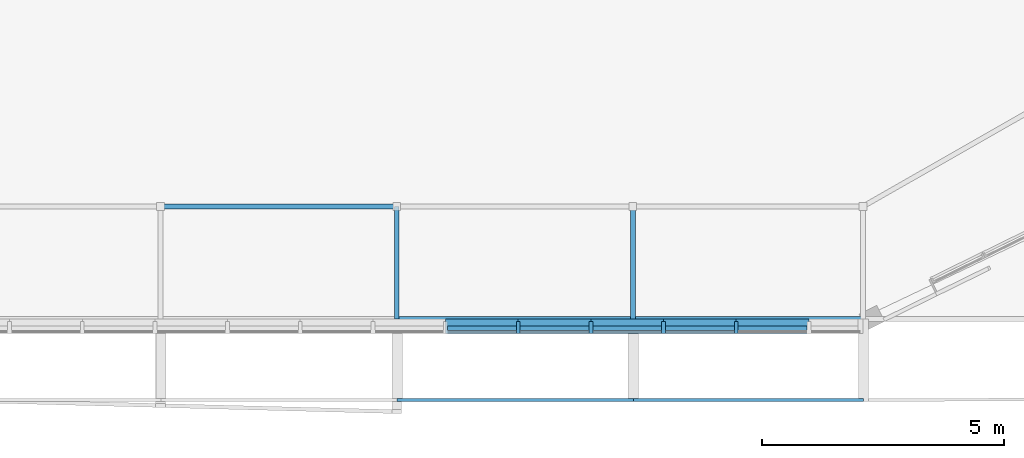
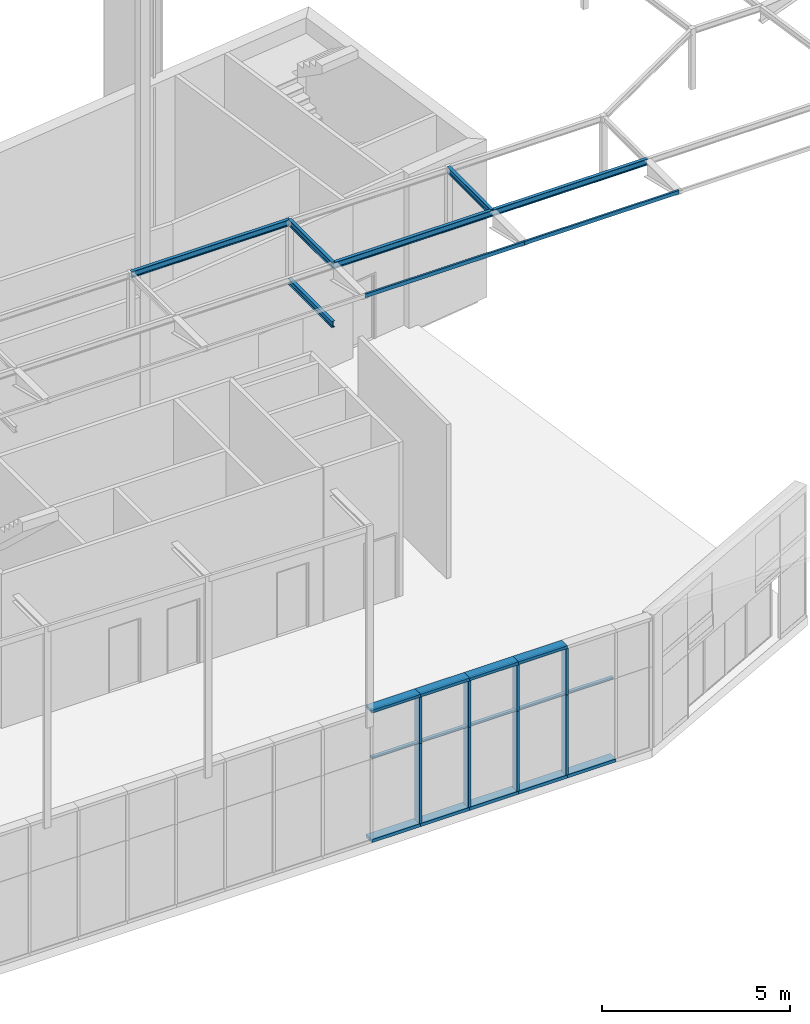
# One storey, part 14 of 40: 26 members, 8 beams, 1 element without a shape of its own.
"""IFC2X3 building model written with IfcOpenShell, lengths in metres."""

import ifcopenshell
import ifcopenshell.guid

model = None  # the IFC model being written
_history = None  # IfcOwnerHistory: only IFC2X3 demands one
_inside = {}  # id of a spatial element -> (the spatial element, [elements in it])
_under = {}  # id of a project, library or spatial element -> (it, [spatial elements below it])
_declared = {}  # id of a project -> (the project, [libraries it declares])
_typed = {}  # id of a type object -> (the type object, [elements of that type])
_made_of = {}  # id of a material, layer set ... -> (it, [elements and type objects made of it])


def new_model(schema):
    """Start an empty IFC model of exactly this schema.

    Asked for "IFC4X3", IfcOpenShell would pick the latest addendum, in which some entities
    have other attributes; the version numbers below select the first issue.
    IFC2X3 requires an IfcOwnerHistory on every rooted entity: one is made here for all.
    """
    global model, _history
    if schema == "IFC4X3":
        model = ifcopenshell.file(schema_version=(4, 3, 0, 0))
    else:
        model = ifcopenshell.file(schema=schema)
    _inside.clear()
    _under.clear()
    _declared.clear()
    _typed.clear()
    _made_of.clear()
    _history = None
    if model.schema == "IFC2X3":
        org = make("IfcOrganization", Name="unknown")
        user = make(
            "IfcPersonAndOrganization",
            ThePerson=make("IfcPerson", FamilyName="unknown"),
            TheOrganization=org,
        )
        app = make(
            "IfcApplication",
            ApplicationDeveloper=org,
            Version="unknown",
            ApplicationFullName="unknown",
            ApplicationIdentifier="unknown",
        )
        _history = make(
            "IfcOwnerHistory",
            OwningUser=user,
            OwningApplication=app,
            ChangeAction="ADDED",
            CreationDate=0,
        )
    return model


def make(cls, **values):
    """One entity of the class cls with the attributes given. An attribute that is None is left unset."""
    return model.create_entity(
        cls, **{name: value for name, value in values.items() if value is not None}
    )


def entity(cls, *values):
    """Any entity or typed value of the class cls, its attributes in the order of the schema. None: left unset."""
    e = model.create_entity(cls)
    for i, value in enumerate(values):
        if value is not None:
            e[i] = value
    return e


def rooted(cls, **values):
    """An entity with a GlobalId (a new one), such as an element, a storey or a relation."""
    return make(cls, GlobalId=ifcopenshell.guid.new(), OwnerHistory=_history, **values)


def si_unit(unit_type, name, prefix=None):
    """IfcSIUnit, for example si_unit("LENGTHUNIT", "METRE", prefix="MILLI")."""
    return make("IfcSIUnit", UnitType=unit_type, Prefix=prefix, Name=name)


def converted_unit(unit_type, name, factor, base, dimensions=None, offset=None):
    """IfcConversionBasedUnit, such as the inch: factor (a typed value) times the base unit."""
    return make(
        "IfcConversionBasedUnit"
        if offset is None
        else "IfcConversionBasedUnitWithOffset",
        ConversionOffset=offset,
        Dimensions=None
        if dimensions is None
        else entity("IfcDimensionalExponents", *dimensions),
        UnitType=unit_type,
        Name=name,
        ConversionFactor=make(
            "IfcMeasureWithUnit", ValueComponent=factor, UnitComponent=base
        ),
    )


def money_unit(currency):
    """IfcMonetaryUnit."""
    return make("IfcMonetaryUnit", Currency=currency)


def assignment(units):
    """IfcUnitAssignment: the units of a project."""
    return None if units is None else make("IfcUnitAssignment", Units=units)


def point(xyz):
    """IfcCartesianPoint."""
    return None if xyz is None else make("IfcCartesianPoint", Coordinates=xyz)


def direction(xyz):
    """IfcDirection."""
    return None if xyz is None else make("IfcDirection", DirectionRatios=xyz)


def frame(location, z_axis=None, x_axis=None):
    """IfcAxis2Placement3D, a coordinate frame: its origin and axes. An axis left out is left unset."""
    return make(
        "IfcAxis2Placement3D",
        Location=point(location),
        Axis=direction(z_axis),
        RefDirection=direction(x_axis),
    )


def frame_2d(location, x_axis=None):
    """IfcAxis2Placement2D, a coordinate frame in the plane: its origin and x axis."""
    return make(
        "IfcAxis2Placement2D", Location=point(location), RefDirection=direction(x_axis)
    )


def origin_with_axes():
    """The frame at (0, 0, 0) with the z axis (0, 0, 1) and the x axis (1, 0, 0) written out."""
    return frame((0.0, 0.0, 0.0), z_axis=(0.0, 0.0, 1.0), x_axis=(1.0, 0.0, 0.0))


def place(relative_to, where):
    """IfcLocalPlacement: puts the frame where relative to a parent placement (None: the world)."""
    return make(
        "IfcLocalPlacement", PlacementRelTo=relative_to, RelativePlacement=where
    )


def context(
    kind, dimensions, precision=None, world=None, true_north=None, identifier=None
):
    """IfcGeometricRepresentationContext, for example the 3D "Model" context."""
    return make(
        "IfcGeometricRepresentationContext",
        ContextIdentifier=identifier,
        ContextType=kind,
        CoordinateSpaceDimension=dimensions,
        Precision=precision,
        WorldCoordinateSystem=world,
        TrueNorth=true_north,
    )


def subcontext(parent, identifier, kind, view, scale=None):
    """IfcGeometricRepresentationSubContext, for example "Body" below "Model"."""
    return make(
        "IfcGeometricRepresentationSubContext",
        ContextIdentifier=identifier,
        ContextType=kind,
        ParentContext=parent,
        TargetScale=scale,
        TargetView=view,
    )


def project(units=None, contexts=None):
    """IfcProject with its units and contexts."""
    return rooted(
        "IfcProject",
        Name="project",
        RepresentationContexts=contexts,
        UnitsInContext=assignment(units),
    )


def spatial(cls, under=None, at=None, **own):
    """A site, building, storey or space (cls), placed at a placement, below another one or the project."""
    s = rooted(cls, ObjectPlacement=at, **own)
    if under is not None:
        _under.setdefault(under.id(), (under, []))[1].append(s)
    return s


def polyline(points):
    """IfcPolyline through the points."""
    return make("IfcPolyline", Points=[point(p) for p in points])


def circle_curve(where, radius):
    """IfcCircle in the frame where."""
    return make("IfcCircle", Position=where, Radius=radius)


def parameter(value):
    """IfcParameterValue: where a trimmed curve begins or ends, as a parameter of its basis curve."""
    return model.create_entity("IfcParameterValue", value)


def trimmed(basis, trim1, trim2, sense, master):
    """IfcTrimmedCurve: the piece of a basis curve between two trims."""
    return make(
        "IfcTrimmedCurve",
        BasisCurve=basis,
        Trim1=trim1,
        Trim2=trim2,
        SenseAgreement=sense,
        MasterRepresentation=master,
    )


def segment(curve, same_sense, transition):
    """IfcCompositeCurveSegment."""
    return make(
        "IfcCompositeCurveSegment",
        Transition=transition,
        SameSense=same_sense,
        ParentCurve=curve,
    )


def composite_curve(segments, self_intersect=None):
    """IfcCompositeCurve: segments joined end to end."""
    return make("IfcCompositeCurve", Segments=segments, SelfIntersect=self_intersect)


def outline(outer, holes=None, kind="AREA"):
    """IfcArbitraryClosedProfileDef: a profile drawn as a closed curve; with holes, ...WithVoids."""
    if holes is None:
        return make("IfcArbitraryClosedProfileDef", ProfileType=kind, OuterCurve=outer)
    return make(
        "IfcArbitraryProfileDefWithVoids",
        ProfileType=kind,
        OuterCurve=outer,
        InnerCurves=holes,
    )


def extrude(swept, where, along, depth):
    """IfcExtrudedAreaSolid: the profile swept, set in the frame where, extruded along a direction by depth."""
    return make(
        "IfcExtrudedAreaSolid",
        SweptArea=swept,
        Position=where,
        ExtrudedDirection=direction(along),
        Depth=depth,
    )


def clip(a, b, op="DIFFERENCE"):
    """IfcBooleanClippingResult: the solid a cut by the half space b."""
    return make(
        "IfcBooleanClippingResult", Operator=op, FirstOperand=a, SecondOperand=b
    )


def halfspace(plane, agree):
    """IfcHalfSpaceSolid: all space on one side of the plane z = 0 of the frame plane."""
    return make(
        "IfcHalfSpaceSolid",
        BaseSurface=make("IfcPlane", Position=plane),
        AgreementFlag=agree,
    )


def shape(context_of_items, identifier, shape_type, items):
    """IfcShapeRepresentation: the items that make up one representation, for example the "Body"."""
    return make(
        "IfcShapeRepresentation",
        ContextOfItems=context_of_items,
        RepresentationIdentifier=identifier,
        RepresentationType=shape_type,
        Items=items,
    )


def material(Name=None, Category=None):
    """IfcMaterial."""
    return make("IfcMaterial", Name=Name, Category=Category)


def made_of(thing, what):
    """Note that an element or type object is made of a material, layer set ...; save() writes the relation."""
    if what is not None:
        _made_of.setdefault(what.id(), (what, []))[1].append(thing)
    return thing


def type_object(cls, material=None, **own):
    """A type object (cls), such as IfcWallType, which elements share."""
    return made_of(rooted(cls, **own), material)


def element(
    cls,
    number,
    at=None,
    inside=None,
    cuts=None,
    type_object=None,
    material=None,
    context=None,
    identifier="Body",
    shape_type=None,
    held_by="IfcProductDefinitionShape",
    body=None,
    shapes=None,
    **own,
):
    """One element of the class cls, such as IfcWall. Its Tag is "e" and its number.

    at: its placement. inside: the storey or other place that contains it. cuts: it is an
    opening in that element (IfcRelVoidsElement). A single representation is given by context,
    identifier, shape_type and body (its items); several are given by shapes. held_by: the class
    of the entity that holds the representations. save() writes the other relations.
    """
    e = rooted(cls, Tag="e%d" % number, ObjectPlacement=at, **own)
    if body is not None:
        shapes = [shape(context, identifier, shape_type, body)]
    if shapes is not None:
        e.Representation = make(held_by, Representations=shapes)
    if inside is not None:
        _inside.setdefault(inside.id(), (inside, []))[1].append(e)
    if cuts is not None:
        rooted(
            "IfcRelVoidsElement", RelatingBuildingElement=cuts, RelatedOpeningElement=e
        )
    if type_object is not None:
        _typed.setdefault(type_object.id(), (type_object, []))[1].append(e)
    return made_of(e, material)


def aggregate(whole, parts):
    """IfcRelAggregates: a whole, such as a stair, and the parts it consists of."""
    return rooted("IfcRelAggregates", RelatingObject=whole, RelatedObjects=parts)


def save(model, path):
    """Write the relations noted so far, then the file.

    IfcRelAggregates (storeys below a building ...), IfcRelContainedInSpatialStructure (elements
    in a storey), IfcRelDefinesByType, IfcRelAssociatesMaterial and IfcRelDeclares: one each for
    every whole, place, type object, material and project.
    """
    for whole, parts in _under.values():
        aggregate(whole, parts)
    for where, things in _inside.values():
        rooted(
            "IfcRelContainedInSpatialStructure",
            RelatedElements=things,
            RelatingStructure=where,
        )
    for kind, things in _typed.values():
        rooted("IfcRelDefinesByType", RelatedObjects=things, RelatingType=kind)
    for what, things in _made_of.values():
        rooted("IfcRelAssociatesMaterial", RelatedObjects=things, RelatingMaterial=what)
    for by, libraries in _declared.values():
        rooted("IfcRelDeclares", RelatingContext=by, RelatedDefinitions=libraries)
    model.write(path)


model = new_model("IFC2X3")

# Units and contexts
model_context = context("Model", 3, precision=1e-05, world=origin_with_axes(), true_north=direction((0.0, 1.0)))
body_context = subcontext(model_context, "Body", "Model", "MODEL_VIEW")
ifc_project = project(units=[si_unit("LENGTHUNIT", "METRE"), si_unit("AREAUNIT", "SQUARE_METRE"), si_unit("VOLUMEUNIT", "CUBIC_METRE"), converted_unit("PLANEANGLEUNIT", "DEGREE", entity("IfcPlaneAngleMeasure", 0.0174532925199), si_unit("PLANEANGLEUNIT", "RADIAN"), dimensions=[0, 0, 0, 0, 0, 0, 0]), si_unit("SOLIDANGLEUNIT", "STERADIAN"), money_unit("EUR"), converted_unit("TIMEUNIT", "Year", entity("IfcTimeMeasure", 31556926.0), si_unit("TIMEUNIT", "SECOND"), dimensions=[0, 0, 0, 0, 0, 0, 0]), si_unit("MASSUNIT", "GRAM"), si_unit("THERMODYNAMICTEMPERATUREUNIT", "DEGREE_CELSIUS"), si_unit("LUMINOUSINTENSITYUNIT", "LUMEN")], contexts=[model_context])

# Site, building, storey
site_placement = place(None, origin_with_axes())
site = spatial("IfcSite", under=ifc_project, at=site_placement, Name="Undefined", CompositionType="ELEMENT")
building_placement = place(site_placement, origin_with_axes())
building = spatial("IfcBuilding", under=site, at=building_placement, Name="Undefined", CompositionType="ELEMENT")
storey_placement = place(building_placement, origin_with_axes())
storey = spatial("IfcBuildingStorey", under=building, at=storey_placement, Name="Rez de chauss\x8ee", CompositionType="ELEMENT", Elevation=0.0)

# Beams
ifc_material_1 = material(Name="STEEL/S235JRG2 3386696625")
beam_type_1 = type_object("IfcBeamType", Name="IPE200", PredefinedType="NOTDEFINED")
beam_1_placement = place(storey_placement, frame((51.9749993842, 9.78136793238e-10, 19.02503), z_axis=(0.0, 0.0, 1.0), x_axis=(0.0, -1.0, 0.0)))
element("IfcBeam", 1, at=beam_1_placement, inside=storey, type_object=beam_type_1, material=ifc_material_1, Name="BEAM", ObjectType="BEAM", context=body_context, shape_type="SweptSolid", body=[
    extrude(outline(composite_curve([segment(polyline([(0.05, -0.1), (0.05, -0.0915), (0.0147999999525, -0.0915)]), True, "CONTINUOUS"), segment(trimmed(circle_curve(frame_2d((0.0147999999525, -0.0795), x_axis=(-1.0, 0.0)), 0.012), [point((0.0147999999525, -0.0915)), parameter(90.0)], [point((0.0027999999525, -0.0795)), parameter(0.0)], False, "CARTESIAN"), True, "CONTINUOUS"), segment(polyline([(0.0027999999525, -0.0795), (0.0027999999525, 0.0795)]), True, "CONTINUOUS"), segment(trimmed(circle_curve(frame_2d((0.0147999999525, 0.0795), x_axis=(0.0, 1.0)), 0.012), [point((0.0027999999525, 0.0795)), parameter(90.0)], [point((0.0147999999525, 0.0915)), parameter(0.0)], False, "CARTESIAN"), True, "CONTINUOUS"), segment(polyline([(0.0147999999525, 0.0915), (0.05, 0.0915), (0.05, 0.1), (-0.05, 0.1), (-0.05, 0.0915), (-0.0147999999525, 0.0915)]), True, "CONTINUOUS"), segment(trimmed(circle_curve(frame_2d((-0.0147999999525, 0.0795), x_axis=(1.0, 0.0)), 0.012), [point((-0.0147999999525, 0.0915)), parameter(90.0)], [point((-0.0027999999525, 0.0795)), parameter(0.0)], False, "CARTESIAN"), True, "CONTINUOUS"), segment(polyline([(-0.0027999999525, 0.0795), (-0.0027999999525, -0.0795)]), True, "CONTINUOUS"), segment(trimmed(circle_curve(frame_2d((-0.0147999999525, -0.0795), x_axis=(0.0, -1.0)), 0.012), [point((-0.0027999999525, -0.0795)), parameter(90.0)], [point((-0.0147999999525, -0.0915)), parameter(0.0)], False, "CARTESIAN"), True, "CONTINUOUS"), segment(polyline([(-0.0147999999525, -0.0915), (-0.05, -0.0915), (-0.05, -0.1), (0.05, -0.1)]), True, "CONTINUOUS")], self_intersect=False)), frame((0.0, 4.875, 0.0), z_axis=(0.0, -1.0, 0.0), x_axis=(1.0, 0.0, 0.0)), (0.0, 0.0, 1.0), 4.875),
])
beam_2_placement = place(storey_placement, frame((47.0999999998, 2.32500000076, 19.025), z_axis=(0.0, 0.0, 1.0), x_axis=(0.0, -1.0, 0.0)))
element("IfcBeam", 2, at=beam_2_placement, inside=storey, type_object=beam_type_1, material=ifc_material_1, Name="Poutre", ObjectType="BEAM", context=body_context, shape_type="SweptSolid", body=[
    extrude(outline(composite_curve([segment(polyline([(0.05, -0.1), (0.05, -0.0915), (0.0147999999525, -0.0915)]), True, "CONTINUOUS"), segment(trimmed(circle_curve(frame_2d((0.0147999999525, -0.0795), x_axis=(-1.0, 0.0)), 0.012), [point((0.0147999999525, -0.0915)), parameter(90.0)], [point((0.0027999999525, -0.0795)), parameter(0.0)], False, "CARTESIAN"), True, "CONTINUOUS"), segment(polyline([(0.0027999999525, -0.0795), (0.0027999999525, 0.0795)]), True, "CONTINUOUS"), segment(trimmed(circle_curve(frame_2d((0.0147999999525, 0.0795), x_axis=(0.0, 1.0)), 0.012), [point((0.0027999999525, 0.0795)), parameter(90.0)], [point((0.0147999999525, 0.0915)), parameter(0.0)], False, "CARTESIAN"), True, "CONTINUOUS"), segment(polyline([(0.0147999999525, 0.0915), (0.05, 0.0915), (0.05, 0.1), (-0.05, 0.1), (-0.05, 0.0915), (-0.0147999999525, 0.0915)]), True, "CONTINUOUS"), segment(trimmed(circle_curve(frame_2d((-0.0147999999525, 0.0795), x_axis=(1.0, 0.0)), 0.012), [point((-0.0147999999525, 0.0915)), parameter(90.0)], [point((-0.0027999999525, 0.0795)), parameter(0.0)], False, "CARTESIAN"), True, "CONTINUOUS"), segment(polyline([(-0.0027999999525, 0.0795), (-0.0027999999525, -0.0795)]), True, "CONTINUOUS"), segment(trimmed(circle_curve(frame_2d((-0.0147999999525, -0.0795), x_axis=(0.0, -1.0)), 0.012), [point((-0.0027999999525, -0.0795)), parameter(90.0)], [point((-0.0147999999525, -0.0915)), parameter(0.0)], False, "CARTESIAN"), True, "CONTINUOUS"), segment(polyline([(-0.0147999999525, -0.0915), (-0.05, -0.0915), (-0.05, -0.1), (0.05, -0.1)]), True, "CONTINUOUS")], self_intersect=False)), frame((0.0, 4.87500000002, 0.0), z_axis=(0.0, -1.0, 0.0), x_axis=(1.0, 0.0, 0.0)), (0.0, 0.0, 1.0), 4.87500000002),
])
beam_3_placement = place(storey_placement, frame((51.9749999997, -4.68344062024e-06, 19.02503), z_axis=(0.0, 0.0, 1.0), x_axis=(1.0, 0.0, 0.0)))
element("IfcBeam", 3, at=beam_3_placement, inside=storey, type_object=beam_type_1, material=ifc_material_1, Name="BEAM", ObjectType="BEAM", context=body_context, shape_type="Clipping", body=[
    clip(clip(extrude(outline(composite_curve([segment(polyline([(0.05, -0.1), (0.05, -0.0915), (0.0147999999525, -0.0915)]), True, "CONTINUOUS"), segment(trimmed(circle_curve(frame_2d((0.0147999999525, -0.0795), x_axis=(-1.0, 0.0)), 0.012), [point((0.0147999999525, -0.0915)), parameter(90.0)], [point((0.0027999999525, -0.0795)), parameter(0.0)], False, "CARTESIAN"), True, "CONTINUOUS"), segment(polyline([(0.0027999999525, -0.0795), (0.0027999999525, 0.0795)]), True, "CONTINUOUS"), segment(trimmed(circle_curve(frame_2d((0.0147999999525, 0.0795), x_axis=(0.0, 1.0)), 0.012), [point((0.0027999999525, 0.0795)), parameter(90.0)], [point((0.0147999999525, 0.0915)), parameter(0.0)], False, "CARTESIAN"), True, "CONTINUOUS"), segment(polyline([(0.0147999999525, 0.0915), (0.05, 0.0915), (0.05, 0.1), (-0.05, 0.1), (-0.05, 0.0915), (-0.0147999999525, 0.0915)]), True, "CONTINUOUS"), segment(trimmed(circle_curve(frame_2d((-0.0147999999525, 0.0795), x_axis=(1.0, 0.0)), 0.012), [point((-0.0147999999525, 0.0915)), parameter(90.0)], [point((-0.0027999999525, 0.0795)), parameter(0.0)], False, "CARTESIAN"), True, "CONTINUOUS"), segment(polyline([(-0.0027999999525, 0.0795), (-0.0027999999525, -0.0795)]), True, "CONTINUOUS"), segment(trimmed(circle_curve(frame_2d((-0.0147999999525, -0.0795), x_axis=(0.0, -1.0)), 0.012), [point((-0.0027999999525, -0.0795)), parameter(90.0)], [point((-0.0147999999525, -0.0915)), parameter(0.0)], False, "CARTESIAN"), True, "CONTINUOUS"), segment(polyline([(-0.0147999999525, -0.0915), (-0.05, -0.0915), (-0.05, -0.1), (0.05, -0.1)]), True, "CONTINUOUS")], self_intersect=False)), frame((0.0, 2.32501018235, -2.79001147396e-05), z_axis=(0.0, -0.999999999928, 1.19999967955e-05), x_axis=(1.0, 0.0, 0.0)), (0.0, 0.0, 1.0), 2.32501357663), halfspace(frame((0.0, 3.39411164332e-06, 0.0), z_axis=(0.0, 0.999999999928, -1.19999967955e-05), x_axis=(0.0, 1.19999967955e-05, 0.999999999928)), True)), halfspace(frame((0.0, 2.32500339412, -2.7900033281e-05), z_axis=(0.0, -0.999999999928, 1.19999967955e-05), x_axis=(0.0, -1.19999967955e-05, -0.999999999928)), True)),
])
beam_4_placement = place(storey_placement, frame((51.9749999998, 1.17729648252e-09, 17.1), z_axis=(0.0, 0.0, 1.0), x_axis=(1.0, 0.0, 0.0)))
element("IfcBeam", 4, at=beam_4_placement, inside=storey, type_object=beam_type_1, material=ifc_material_1, Name="BEAM", ObjectType="BEAM", context=body_context, shape_type="SweptSolid", body=[
    extrude(outline(composite_curve([segment(polyline([(0.05, -0.1), (0.05, -0.0915), (0.0147999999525, -0.0915)]), True, "CONTINUOUS"), segment(trimmed(circle_curve(frame_2d((0.0147999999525, -0.0795), x_axis=(-1.0, 0.0)), 0.012), [point((0.0147999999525, -0.0915)), parameter(90.0)], [point((0.0027999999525, -0.0795)), parameter(0.0)], False, "CARTESIAN"), True, "CONTINUOUS"), segment(polyline([(0.0027999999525, -0.0795), (0.0027999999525, 0.0795)]), True, "CONTINUOUS"), segment(trimmed(circle_curve(frame_2d((0.0147999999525, 0.0795), x_axis=(0.0, 1.0)), 0.012), [point((0.0027999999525, 0.0795)), parameter(90.0)], [point((0.0147999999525, 0.0915)), parameter(0.0)], False, "CARTESIAN"), True, "CONTINUOUS"), segment(polyline([(0.0147999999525, 0.0915), (0.05, 0.0915), (0.05, 0.1), (-0.05, 0.1), (-0.05, 0.0915), (-0.0147999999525, 0.0915)]), True, "CONTINUOUS"), segment(trimmed(circle_curve(frame_2d((-0.0147999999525, 0.0795), x_axis=(1.0, 0.0)), 0.012), [point((-0.0147999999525, 0.0915)), parameter(90.0)], [point((-0.0027999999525, 0.0795)), parameter(0.0)], False, "CARTESIAN"), True, "CONTINUOUS"), segment(polyline([(-0.0027999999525, 0.0795), (-0.0027999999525, -0.0795)]), True, "CONTINUOUS"), segment(trimmed(circle_curve(frame_2d((-0.0147999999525, -0.0795), x_axis=(0.0, -1.0)), 0.012), [point((-0.0027999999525, -0.0795)), parameter(90.0)], [point((-0.0147999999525, -0.0915)), parameter(0.0)], False, "CARTESIAN"), True, "CONTINUOUS"), segment(polyline([(-0.0147999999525, -0.0915), (-0.05, -0.0915), (-0.05, -0.1), (0.05, -0.1)]), True, "CONTINUOUS")], self_intersect=False)), frame((0.0, 2.325, 0.0), z_axis=(0.0, -1.0, 0.0), x_axis=(1.0, 0.0, 0.0)), (0.0, 0.0, 1.0), 2.325),
])
beam_5_placement = place(storey_placement, frame((56.8500006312, 1.12129493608e-09, 19.025), z_axis=(0.0, 0.0, 1.0), x_axis=(0.0, -1.0, 0.0)))
element("IfcBeam", 5, at=beam_5_placement, inside=storey, type_object=beam_type_1, material=ifc_material_1, Name="Poutre", ObjectType="BEAM", context=body_context, shape_type="SweptSolid", body=[
    extrude(outline(composite_curve([segment(polyline([(0.05, -0.1), (0.05, -0.0915), (0.0147999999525, -0.0915)]), True, "CONTINUOUS"), segment(trimmed(circle_curve(frame_2d((0.0147999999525, -0.0795), x_axis=(-1.0, 0.0)), 0.012), [point((0.0147999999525, -0.0915)), parameter(90.0)], [point((0.0027999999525, -0.0795)), parameter(0.0)], False, "CARTESIAN"), True, "CONTINUOUS"), segment(polyline([(0.0027999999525, -0.0795), (0.0027999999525, 0.0795)]), True, "CONTINUOUS"), segment(trimmed(circle_curve(frame_2d((0.0147999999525, 0.0795), x_axis=(0.0, 1.0)), 0.012), [point((0.0027999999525, 0.0795)), parameter(90.0)], [point((0.0147999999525, 0.0915)), parameter(0.0)], False, "CARTESIAN"), True, "CONTINUOUS"), segment(polyline([(0.0147999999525, 0.0915), (0.05, 0.0915), (0.05, 0.1), (-0.05, 0.1), (-0.05, 0.0915), (-0.0147999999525, 0.0915)]), True, "CONTINUOUS"), segment(trimmed(circle_curve(frame_2d((-0.0147999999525, 0.0795), x_axis=(1.0, 0.0)), 0.012), [point((-0.0147999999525, 0.0915)), parameter(90.0)], [point((-0.0027999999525, 0.0795)), parameter(0.0)], False, "CARTESIAN"), True, "CONTINUOUS"), segment(polyline([(-0.0027999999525, 0.0795), (-0.0027999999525, -0.0795)]), True, "CONTINUOUS"), segment(trimmed(circle_curve(frame_2d((-0.0147999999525, -0.0795), x_axis=(0.0, -1.0)), 0.012), [point((-0.0027999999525, -0.0795)), parameter(90.0)], [point((-0.0147999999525, -0.0915)), parameter(0.0)], False, "CARTESIAN"), True, "CONTINUOUS"), segment(polyline([(-0.0147999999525, -0.0915), (-0.05, -0.0915), (-0.05, -0.1), (0.05, -0.1)]), True, "CONTINUOUS")], self_intersect=False)), frame((0.0, 4.75, 0.0), z_axis=(0.0, -1.0, 0.0), x_axis=(1.0, 0.0, 0.0)), (0.0, 0.0, 1.0), 4.75),
])
beam_6_placement = place(storey_placement, frame((56.8499999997, 1.31238842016e-09, 19.025), z_axis=(0.0, 0.0, 1.0), x_axis=(1.0, 0.0, 0.0)))
element("IfcBeam", 6, at=beam_6_placement, inside=storey, type_object=beam_type_1, material=ifc_material_1, Name="Poutre", ObjectType="BEAM", context=body_context, shape_type="SweptSolid", body=[
    extrude(outline(composite_curve([segment(polyline([(0.05, -0.1), (0.05, -0.0915), (0.0147999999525, -0.0915)]), True, "CONTINUOUS"), segment(trimmed(circle_curve(frame_2d((0.0147999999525, -0.0795), x_axis=(-1.0, 0.0)), 0.012), [point((0.0147999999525, -0.0915)), parameter(90.0)], [point((0.0027999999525, -0.0795)), parameter(0.0)], False, "CARTESIAN"), True, "CONTINUOUS"), segment(polyline([(0.0027999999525, -0.0795), (0.0027999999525, 0.0795)]), True, "CONTINUOUS"), segment(trimmed(circle_curve(frame_2d((0.0147999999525, 0.0795), x_axis=(0.0, 1.0)), 0.012), [point((0.0027999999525, 0.0795)), parameter(90.0)], [point((0.0147999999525, 0.0915)), parameter(0.0)], False, "CARTESIAN"), True, "CONTINUOUS"), segment(polyline([(0.0147999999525, 0.0915), (0.05, 0.0915), (0.05, 0.1), (-0.05, 0.1), (-0.05, 0.0915), (-0.0147999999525, 0.0915)]), True, "CONTINUOUS"), segment(trimmed(circle_curve(frame_2d((-0.0147999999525, 0.0795), x_axis=(1.0, 0.0)), 0.012), [point((-0.0147999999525, 0.0915)), parameter(90.0)], [point((-0.0027999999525, 0.0795)), parameter(0.0)], False, "CARTESIAN"), True, "CONTINUOUS"), segment(polyline([(-0.0027999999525, 0.0795), (-0.0027999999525, -0.0795)]), True, "CONTINUOUS"), segment(trimmed(circle_curve(frame_2d((-0.0147999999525, -0.0795), x_axis=(0.0, -1.0)), 0.012), [point((-0.0027999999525, -0.0795)), parameter(90.0)], [point((-0.0147999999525, -0.0915)), parameter(0.0)], False, "CARTESIAN"), True, "CONTINUOUS"), segment(polyline([(-0.0147999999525, -0.0915), (-0.05, -0.0915), (-0.05, -0.1), (0.05, -0.1)]), True, "CONTINUOUS")], self_intersect=False)), frame((0.0, 2.325, 0.0), z_axis=(0.0, -1.0, 0.0), x_axis=(1.0, 0.0, 0.0)), (0.0, 0.0, 1.0), 2.325),
])
beam_type_2 = type_object("IfcBeamType", Name="UPE120", PredefinedType="NOTDEFINED")
beam_7_placement = place(storey_placement, frame((51.9846818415, -1.67000005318, 19.045), z_axis=(0.0, 0.0, 1.0), x_axis=(0.0, -1.0, 0.0)))
element("IfcBeam", 7, at=beam_7_placement, inside=storey, type_object=beam_type_2, material=ifc_material_1, Name="Poutre", ObjectType="BEAM", context=body_context, shape_type="SweptSolid", body=[
    extrude(outline(composite_curve([segment(polyline([(-0.03, -0.06), (0.03, -0.06), (0.03, -0.052), (-0.013, -0.052)]), True, "CONTINUOUS"), segment(trimmed(circle_curve(frame_2d((-0.013, -0.04), x_axis=(-1.0, 0.0)), 0.012), [point((-0.013, -0.052)), parameter(90.0)], [point((-0.025, -0.04)), parameter(0.0)], False, "CARTESIAN"), True, "CONTINUOUS"), segment(polyline([(-0.025, -0.04), (-0.025, 0.04)]), True, "CONTINUOUS"), segment(trimmed(circle_curve(frame_2d((-0.013, 0.04), x_axis=(0.0, 1.0)), 0.012), [point((-0.025, 0.04)), parameter(90.0)], [point((-0.013, 0.052)), parameter(0.0)], False, "CARTESIAN"), True, "CONTINUOUS"), segment(polyline([(-0.013, 0.052), (0.03, 0.052), (0.03, 0.06), (-0.03, 0.06), (-0.03, -0.06)]), True, "CONTINUOUS")], self_intersect=False)), frame((0.0, 4.875, 0.0), z_axis=(0.0, -1.0, 0.0), x_axis=(-1.0, 0.0, 0.0)), (0.0, 0.0, 1.0), 4.875),
])
beam_8_placement = place(storey_placement, frame((56.8596818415, -1.67000005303, 19.045), z_axis=(0.0, 0.0, 1.0), x_axis=(0.0, -1.0, 0.0)))
element("IfcBeam", 8, at=beam_8_placement, inside=storey, type_object=beam_type_2, material=ifc_material_1, Name="Poutre", ObjectType="BEAM", context=body_context, shape_type="SweptSolid", body=[
    extrude(outline(composite_curve([segment(polyline([(-0.03, -0.06), (0.03, -0.06), (0.03, -0.052), (-0.013, -0.052)]), True, "CONTINUOUS"), segment(trimmed(circle_curve(frame_2d((-0.013, -0.04), x_axis=(-1.0, 0.0)), 0.012), [point((-0.013, -0.052)), parameter(90.0)], [point((-0.025, -0.04)), parameter(0.0)], False, "CARTESIAN"), True, "CONTINUOUS"), segment(polyline([(-0.025, -0.04), (-0.025, 0.04)]), True, "CONTINUOUS"), segment(trimmed(circle_curve(frame_2d((-0.013, 0.04), x_axis=(0.0, 1.0)), 0.012), [point((-0.025, 0.04)), parameter(90.0)], [point((-0.013, 0.052)), parameter(0.0)], False, "CARTESIAN"), True, "CONTINUOUS"), segment(polyline([(-0.013, 0.052), (0.03, 0.052), (0.03, 0.06), (-0.03, 0.06), (-0.03, -0.06)]), True, "CONTINUOUS")], self_intersect=False)), frame((0.0, 4.75, 0.0), z_axis=(0.0, -1.0, 0.0), x_axis=(-1.0, 0.0, 0.0)), (0.0, 0.0, 1.0), 4.75),
])

# Curtain wall, members
curtain_wall_type = type_object("IfcCurtainWallType", Name="Type de mur-rideau", PredefinedType="NOTDEFINED")
curtain_wall_placement = place(storey_placement, frame((61.0415862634, -0.249999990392, 0.1), z_axis=(0.0, 0.0, 1.0), x_axis=(1.0, 0.0, 0.0)))
curtain_wall = element("IfcCurtainWall", 9, at=curtain_wall_placement, inside=storey, type_object=curtain_wall_type, Name="CurtainWall_02", ObjectType="CURTAIN WALL")
ifc_material_2 = material(Name="25 % 359672764")
member_type_1 = type_object("IfcMemberType", Name="Cadre 100 x 300", PredefinedType="NOTDEFINED")
member_1_placement = place(curtain_wall_placement, frame((-3.55841373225, 6.12286229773e-08, 0.0), z_axis=(1.0, -1.72067183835e-08, 0.0), x_axis=(0.0, 0.0, 1.0)))
member_1 = element("IfcMember", 10, at=member_1_placement, type_object=member_type_1, material=ifc_material_2, Name="Frame-Bnd-907", context=body_context, shape_type="SweptSolid", body=[
    extrude(outline(polyline([(-0.25, -0.1), (0.05, -0.1), (0.05, 0.0), (-0.25, 0.0), (-0.25, -0.1)])), frame((0.0, 0.0, 0.0), z_axis=(0.0, 0.0, 1.0), x_axis=(0.0, 1.0, 0.0)), (0.0, 0.0, 1.0), 1.5),
])
member_2_placement = place(curtain_wall_placement, frame((-8.05841373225, 1.38658855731e-07, 0.0), z_axis=(1.0, -1.72067183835e-08, 0.0), x_axis=(0.0, 0.0, 1.0)))
member_2 = element("IfcMember", 11, at=member_2_placement, type_object=member_type_1, material=ifc_material_2, Name="Frame-Bnd-910", context=body_context, shape_type="SweptSolid", body=[
    extrude(outline(polyline([(-0.25, -0.1), (0.05, -0.1), (0.05, 0.0), (-0.25, 0.0), (-0.25, -0.1)])), frame((0.0, 0.0, 0.0), z_axis=(0.0, 0.0, 1.0), x_axis=(0.0, 1.0, 0.0)), (0.0, 0.0, 1.0), 1.5),
])
member_3_placement = place(curtain_wall_placement, frame((-2.05841373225, 3.54185454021e-08, 0.0), z_axis=(1.0, -1.72067183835e-08, 0.0), x_axis=(0.0, 0.0, 1.0)))
member_3 = element("IfcMember", 12, at=member_3_placement, type_object=member_type_1, material=ifc_material_2, Name="Frame-Bnd-906", context=body_context, shape_type="SweptSolid", body=[
    extrude(outline(polyline([(-0.25, -0.1), (0.05, -0.1), (0.05, 0.0), (-0.25, 0.0), (-0.25, -0.1)])), frame((0.0, 0.0, 0.0), z_axis=(0.0, 0.0, 1.0), x_axis=(0.0, 1.0, 0.0)), (0.0, 0.0, 1.0), 1.5),
])
member_4_placement = place(curtain_wall_placement, frame((-6.55841373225, 1.12848778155e-07, 0.0), z_axis=(1.0, -1.7206718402e-08, 0.0), x_axis=(0.0, 0.0, 1.0)))
member_4 = element("IfcMember", 13, at=member_4_placement, type_object=member_type_1, material=ifc_material_2, Name="Frame-Bnd-909", context=body_context, shape_type="SweptSolid", body=[
    extrude(outline(polyline([(-0.25, -0.1), (0.05, -0.1), (0.05, 0.0), (-0.25, 0.0), (-0.25, -0.1)])), frame((0.0, 0.0, 0.0), z_axis=(0.0, 0.0, 1.0), x_axis=(0.0, 1.0, 0.0)), (0.0, 0.0, 1.0), 1.5),
])
member_5_placement = place(curtain_wall_placement, frame((-5.05841373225, 8.70387005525e-08, 0.0), z_axis=(1.0, -1.72067183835e-08, 0.0), x_axis=(0.0, 0.0, 1.0)))
member_5 = element("IfcMember", 14, at=member_5_placement, type_object=member_type_1, material=ifc_material_2, Name="Frame-Bnd-908", context=body_context, shape_type="SweptSolid", body=[
    extrude(outline(polyline([(-0.25, -0.1), (0.05, -0.1), (0.05, 0.0), (-0.25, 0.0), (-0.25, -0.1)])), frame((0.0, 0.0, 0.0), z_axis=(0.0, 0.0, 1.0), x_axis=(0.0, 1.0, 0.0)), (0.0, 0.0, 1.0), 1.5),
])
member_6_placement = place(curtain_wall_placement, frame((-2.05841373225, 3.54185454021e-08, 4.3), z_axis=(-1.0, 1.72067183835e-08, 0.0), x_axis=(0.0, 0.0, -1.0)))
member_6 = element("IfcMember", 15, at=member_6_placement, type_object=member_type_1, material=ifc_material_2, Name="Frame-Bnd-811", context=body_context, shape_type="SweptSolid", body=[
    extrude(outline(polyline([(0.25, 0.1), (-0.05, 0.1), (-0.05, 0.0), (0.25, 0.0), (0.25, 0.1)])), frame((0.0, 0.0, 0.0), z_axis=(0.0, 0.0, 1.0), x_axis=(0.0, -1.0, 0.0)), (0.0, 0.0, 1.0), 1.5),
])
member_7_placement = place(curtain_wall_placement, frame((-3.55841373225, 6.12286229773e-08, 4.3), z_axis=(-1.0, 1.72067183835e-08, 0.0), x_axis=(0.0, 0.0, -1.0)))
member_7 = element("IfcMember", 16, at=member_7_placement, type_object=member_type_1, material=ifc_material_2, Name="Frame-Bnd-810", context=body_context, shape_type="SweptSolid", body=[
    extrude(outline(polyline([(0.25, 0.1), (-0.05, 0.1), (-0.05, 0.0), (0.25, 0.0), (0.25, 0.1)])), frame((0.0, 0.0, 0.0), z_axis=(0.0, 0.0, 1.0), x_axis=(0.0, -1.0, 0.0)), (0.0, 0.0, 1.0), 1.5),
])
member_8_placement = place(curtain_wall_placement, frame((-5.05841373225, 8.70387005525e-08, 4.3), z_axis=(-1.0, 1.7206718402e-08, 0.0), x_axis=(0.0, 0.0, -1.0)))
member_8 = element("IfcMember", 17, at=member_8_placement, type_object=member_type_1, material=ifc_material_2, Name="Frame-Bnd-809", context=body_context, shape_type="SweptSolid", body=[
    extrude(outline(polyline([(0.25, 0.1), (-0.05, 0.1), (-0.05, 0.0), (0.25, 0.0), (0.25, 0.1)])), frame((0.0, 0.0, 0.0), z_axis=(0.0, 0.0, 1.0), x_axis=(0.0, -1.0, 0.0)), (0.0, 0.0, 1.0), 1.5),
])
member_9_placement = place(curtain_wall_placement, frame((-6.55841373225, 1.12848778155e-07, 4.3), z_axis=(-1.0, 1.72067183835e-08, 0.0), x_axis=(0.0, 0.0, -1.0)))
member_9 = element("IfcMember", 18, at=member_9_placement, type_object=member_type_1, material=ifc_material_2, Name="Frame-Bnd-808", context=body_context, shape_type="SweptSolid", body=[
    extrude(outline(polyline([(0.25, 0.1), (-0.05, 0.1), (-0.05, 0.0), (0.25, 0.0), (0.25, 0.1)])), frame((0.0, 0.0, 0.0), z_axis=(0.0, 0.0, 1.0), x_axis=(0.0, -1.0, 0.0)), (0.0, 0.0, 1.0), 1.5),
])
member_type_2 = type_object("IfcMemberType", Name="Montant 80 x 250", PredefinedType="NOTDEFINED")
member_10_placement = place(curtain_wall_placement, frame((-6.55841373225, 1.12848778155e-07, 0.0), z_axis=(0.0, 0.0, 1.0), x_axis=(-1.0, 1.72067183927e-08, 0.0)))
member_10 = element("IfcMember", 19, at=member_10_placement, type_object=member_type_2, material=ifc_material_2, Name="Frame-Mll-283", context=body_context, shape_type="SweptSolid", body=[
    extrude(outline(polyline([(-0.0399999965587, 0.200000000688), (-0.0400000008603, -0.0499999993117), (0.0399999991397, -0.0500000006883), (0.0400000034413, 0.199999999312), (-0.0399999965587, 0.200000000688)])), frame((0.0, 0.0, 0.1), z_axis=(0.0, 0.0, 1.0), x_axis=(-1.0, -1.72067183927e-08, 0.0)), (0.0, 0.0, 1.0), 2.6),
])
member_11_placement = place(curtain_wall_placement, frame((-5.05841373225, 8.70387005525e-08, 0.0), z_axis=(0.0, 0.0, 1.0), x_axis=(-1.0, 1.72067183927e-08, 0.0)))
member_11 = element("IfcMember", 20, at=member_11_placement, type_object=member_type_2, material=ifc_material_2, Name="Frame-Mll-283", context=body_context, shape_type="SweptSolid", body=[
    extrude(outline(polyline([(-0.0399999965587, 0.200000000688), (-0.0400000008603, -0.0499999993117), (0.0399999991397, -0.0500000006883), (0.0400000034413, 0.199999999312), (-0.0399999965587, 0.200000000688)])), frame((0.0, 0.0, 0.1), z_axis=(0.0, 0.0, 1.0), x_axis=(-1.0, -1.72067183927e-08, 0.0)), (0.0, 0.0, 1.0), 2.6),
])
member_12_placement = place(curtain_wall_placement, frame((-3.55841373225, 6.12286229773e-08, 0.0), z_axis=(0.0, 0.0, 1.0), x_axis=(-1.0, 1.72067183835e-08, 0.0)))
member_12 = element("IfcMember", 21, at=member_12_placement, type_object=member_type_2, material=ifc_material_2, Name="Frame-Mll-283", context=body_context, shape_type="SweptSolid", body=[
    extrude(outline(polyline([(-0.0399999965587, 0.200000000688), (-0.0400000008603, -0.0499999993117), (0.0399999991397, -0.0500000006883), (0.0400000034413, 0.199999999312), (-0.0399999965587, 0.200000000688)])), frame((0.0, 0.0, 0.1), z_axis=(0.0, 0.0, 1.0), x_axis=(-1.0, -1.72067183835e-08, 0.0)), (0.0, 0.0, 1.0), 2.6),
])
member_13_placement = place(curtain_wall_placement, frame((-2.05841373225, 3.54185454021e-08, 0.0), z_axis=(0.0, 0.0, 1.0), x_axis=(-1.0, 1.72067183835e-08, 0.0)))
member_13 = element("IfcMember", 22, at=member_13_placement, type_object=member_type_2, material=ifc_material_2, Name="Frame-Mll-283", context=body_context, shape_type="SweptSolid", body=[
    extrude(outline(polyline([(-0.0399999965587, 0.200000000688), (-0.0400000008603, -0.0499999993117), (0.0399999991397, -0.0500000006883), (0.0400000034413, 0.199999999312), (-0.0399999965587, 0.200000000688)])), frame((0.0, 0.0, 0.1), z_axis=(0.0, 0.0, 1.0), x_axis=(-1.0, -1.72067183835e-08, 0.0)), (0.0, 0.0, 1.0), 2.6),
])
member_14_placement = place(curtain_wall_placement, frame((-6.55841373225, 1.12848778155e-07, 2.7), z_axis=(0.0, 0.0, 1.0), x_axis=(-1.0, 1.72067183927e-08, 0.0)))
member_14 = element("IfcMember", 23, at=member_14_placement, type_object=member_type_2, material=ifc_material_2, Name="Frame-Mll-684", context=body_context, shape_type="SweptSolid", body=[
    extrude(outline(polyline([(-0.0399999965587, 0.200000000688), (-0.0400000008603, -0.0499999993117), (0.0399999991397, -0.0500000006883), (0.0400000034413, 0.199999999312), (-0.0399999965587, 0.200000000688)])), frame((0.0, 0.0, 0.0), z_axis=(0.0, 0.0, 1.0), x_axis=(-1.0, -1.72067183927e-08, 0.0)), (0.0, 0.0, 1.0), 1.5),
])
member_15_placement = place(curtain_wall_placement, frame((-5.05841373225, 8.70387005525e-08, 2.7), z_axis=(0.0, 0.0, 1.0), x_axis=(-1.0, 1.72067183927e-08, 0.0)))
member_15 = element("IfcMember", 24, at=member_15_placement, type_object=member_type_2, material=ifc_material_2, Name="Frame-Mll-685", context=body_context, shape_type="SweptSolid", body=[
    extrude(outline(polyline([(-0.0399999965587, 0.200000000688), (-0.0400000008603, -0.0499999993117), (0.0399999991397, -0.0500000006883), (0.0400000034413, 0.199999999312), (-0.0399999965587, 0.200000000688)])), frame((0.0, 0.0, 0.0), z_axis=(0.0, 0.0, 1.0), x_axis=(-1.0, -1.72067183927e-08, 0.0)), (0.0, 0.0, 1.0), 1.5),
])
member_16_placement = place(curtain_wall_placement, frame((-3.55841373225, 6.12286229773e-08, 2.7), z_axis=(0.0, 0.0, 1.0), x_axis=(-1.0, 1.72067183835e-08, 0.0)))
member_16 = element("IfcMember", 25, at=member_16_placement, type_object=member_type_2, material=ifc_material_2, Name="Frame-Mll-686", context=body_context, shape_type="SweptSolid", body=[
    extrude(outline(polyline([(-0.0399999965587, 0.200000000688), (-0.0400000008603, -0.0499999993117), (0.0399999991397, -0.0500000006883), (0.0400000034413, 0.199999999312), (-0.0399999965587, 0.200000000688)])), frame((0.0, 0.0, 0.0), z_axis=(0.0, 0.0, 1.0), x_axis=(-1.0, -1.72067183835e-08, 0.0)), (0.0, 0.0, 1.0), 1.5),
])
member_17_placement = place(curtain_wall_placement, frame((-2.05841373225, 3.54185454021e-08, 2.7), z_axis=(0.0, 0.0, 1.0), x_axis=(-1.0, 1.72067183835e-08, 0.0)))
member_17 = element("IfcMember", 26, at=member_17_placement, type_object=member_type_2, material=ifc_material_2, Name="Frame-Mll-687", context=body_context, shape_type="SweptSolid", body=[
    extrude(outline(polyline([(-0.0399999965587, 0.200000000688), (-0.0400000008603, -0.0499999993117), (0.0399999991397, -0.0500000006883), (0.0400000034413, 0.199999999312), (-0.0399999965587, 0.200000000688)])), frame((0.0, 0.0, 0.0), z_axis=(0.0, 0.0, 1.0), x_axis=(-1.0, -1.72067183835e-08, 0.0)), (0.0, 0.0, 1.0), 1.5),
])
member_type_3 = type_object("IfcMemberType", Name="Traverse 60 x 100", PredefinedType="NOTDEFINED")
member_18_placement = place(curtain_wall_placement, frame((-8.05841373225, 1.38658855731e-07, 2.7), z_axis=(1.0, -1.72067183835e-08, 0.0), x_axis=(0.0, 0.0, 1.0)))
member_18 = element("IfcMember", 27, at=member_18_placement, type_object=member_type_3, material=ifc_material_2, Name="Frame-Trs-922", context=body_context, shape_type="SweptSolid", body=[
    extrude(outline(polyline([(-0.11, -0.03), (-0.01, -0.03), (-0.01, 0.03), (-0.11, 0.03), (-0.11, -0.03)])), frame((0.0, 0.0, 0.04), z_axis=(0.0, 0.0, 1.0), x_axis=(0.0, 1.0, 0.0)), (0.0, 0.0, 1.0), 1.42),
])
member_19_placement = place(curtain_wall_placement, frame((-6.55841373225, 1.12848778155e-07, 2.7), z_axis=(1.0, -1.7206718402e-08, 0.0), x_axis=(0.0, 0.0, 1.0)))
member_19 = element("IfcMember", 28, at=member_19_placement, type_object=member_type_3, material=ifc_material_2, Name="Frame-Trs-922", context=body_context, shape_type="SweptSolid", body=[
    extrude(outline(polyline([(-0.11, -0.03), (-0.01, -0.03), (-0.01, 0.03), (-0.11, 0.03), (-0.11, -0.03)])), frame((0.0, 0.0, 0.04), z_axis=(0.0, 0.0, 1.0), x_axis=(0.0, 1.0, 0.0)), (0.0, 0.0, 1.0), 1.42),
])
member_20_placement = place(curtain_wall_placement, frame((-5.05841373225, 8.70387005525e-08, 2.7), z_axis=(1.0, -1.72067183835e-08, 0.0), x_axis=(0.0, 0.0, 1.0)))
member_20 = element("IfcMember", 29, at=member_20_placement, type_object=member_type_3, material=ifc_material_2, Name="Frame-Trs-922", context=body_context, shape_type="SweptSolid", body=[
    extrude(outline(polyline([(-0.11, -0.03), (-0.01, -0.03), (-0.01, 0.03), (-0.11, 0.03), (-0.11, -0.03)])), frame((0.0, 0.0, 0.04), z_axis=(0.0, 0.0, 1.0), x_axis=(0.0, 1.0, 0.0)), (0.0, 0.0, 1.0), 1.42),
])
member_21_placement = place(curtain_wall_placement, frame((-3.55841373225, 6.12286229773e-08, 2.7), z_axis=(1.0, -1.72067183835e-08, 0.0), x_axis=(0.0, 0.0, 1.0)))
member_21 = element("IfcMember", 30, at=member_21_placement, type_object=member_type_3, material=ifc_material_2, Name="Frame-Trs-922", context=body_context, shape_type="SweptSolid", body=[
    extrude(outline(polyline([(-0.11, -0.03), (-0.01, -0.03), (-0.01, 0.03), (-0.11, 0.03), (-0.11, -0.03)])), frame((0.0, 0.0, 0.04), z_axis=(0.0, 0.0, 1.0), x_axis=(0.0, 1.0, 0.0)), (0.0, 0.0, 1.0), 1.42),
])
member_22_placement = place(curtain_wall_placement, frame((-2.05841373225, 3.54185454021e-08, 2.7), z_axis=(1.0, -1.72067183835e-08, 0.0), x_axis=(0.0, 0.0, 1.0)))
member_22 = element("IfcMember", 31, at=member_22_placement, type_object=member_type_3, material=ifc_material_2, Name="Frame-Trs-922", context=body_context, shape_type="SweptSolid", body=[
    extrude(outline(polyline([(-0.11, -0.03), (-0.01, -0.03), (-0.01, 0.03), (-0.11, 0.03), (-0.11, -0.03)])), frame((0.0, 0.0, 0.04), z_axis=(0.0, 0.0, 1.0), x_axis=(0.0, 1.0, 0.0)), (0.0, 0.0, 1.0), 1.42),
])
member_23_placement = place(curtain_wall_placement, frame((-8.05841373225, 1.38658855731e-07, 4.2), z_axis=(1.0, -1.72067183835e-08, 0.0), x_axis=(0.0, 0.0, 1.0)))
member_23 = element("IfcMember", 32, at=member_23_placement, type_object=member_type_3, material=ifc_material_2, Name="Frame-Trs-227", context=body_context, shape_type="SweptSolid", body=[
    extrude(outline(polyline([(-0.11, -0.03), (-0.01, -0.03), (-0.01, 0.03), (-0.11, 0.03), (-0.11, -0.03)])), frame((0.0, 0.0, 0.04), z_axis=(0.0, 0.0, 1.0), x_axis=(0.0, 1.0, 0.0)), (0.0, 0.0, 1.0), 1.42),
])
member_24_placement = place(curtain_wall_placement, frame((-6.55841373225, 1.12848778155e-07, 4.2), z_axis=(1.0, -1.7206718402e-08, 0.0), x_axis=(0.0, 0.0, 1.0)))
member_24 = element("IfcMember", 33, at=member_24_placement, type_object=member_type_3, material=ifc_material_2, Name="Frame-Trs-227", context=body_context, shape_type="SweptSolid", body=[
    extrude(outline(polyline([(-0.11, -0.03), (-0.01, -0.03), (-0.01, 0.03), (-0.11, 0.03), (-0.11, -0.03)])), frame((0.0, 0.0, 0.04), z_axis=(0.0, 0.0, 1.0), x_axis=(0.0, 1.0, 0.0)), (0.0, 0.0, 1.0), 1.42),
])
member_25_placement = place(curtain_wall_placement, frame((-5.05841373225, 8.70387005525e-08, 4.2), z_axis=(1.0, -1.72067183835e-08, 0.0), x_axis=(0.0, 0.0, 1.0)))
member_25 = element("IfcMember", 34, at=member_25_placement, type_object=member_type_3, material=ifc_material_2, Name="Frame-Trs-227", context=body_context, shape_type="SweptSolid", body=[
    extrude(outline(polyline([(-0.11, -0.03), (-0.01, -0.03), (-0.01, 0.03), (-0.11, 0.03), (-0.11, -0.03)])), frame((0.0, 0.0, 0.04), z_axis=(0.0, 0.0, 1.0), x_axis=(0.0, 1.0, 0.0)), (0.0, 0.0, 1.0), 1.42),
])
member_26_placement = place(curtain_wall_placement, frame((-3.55841373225, 6.12286229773e-08, 4.2), z_axis=(1.0, -1.72067183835e-08, 0.0), x_axis=(0.0, 0.0, 1.0)))
member_26 = element("IfcMember", 35, at=member_26_placement, type_object=member_type_3, material=ifc_material_2, Name="Frame-Trs-227", context=body_context, shape_type="SweptSolid", body=[
    extrude(outline(polyline([(-0.11, -0.03), (-0.01, -0.03), (-0.01, 0.03), (-0.11, 0.03), (-0.11, -0.03)])), frame((0.0, 0.0, 0.04), z_axis=(0.0, 0.0, 1.0), x_axis=(0.0, 1.0, 0.0)), (0.0, 0.0, 1.0), 1.42),
])
aggregate(curtain_wall, [member_1, member_2, member_3, member_4, member_5, member_10, member_11, member_12, member_13, member_18, member_19, member_20, member_21, member_22, member_14, member_15, member_16, member_17, member_23, member_24, member_25, member_26, member_6, member_7, member_8, member_9])

save(model, "model.ifc")
